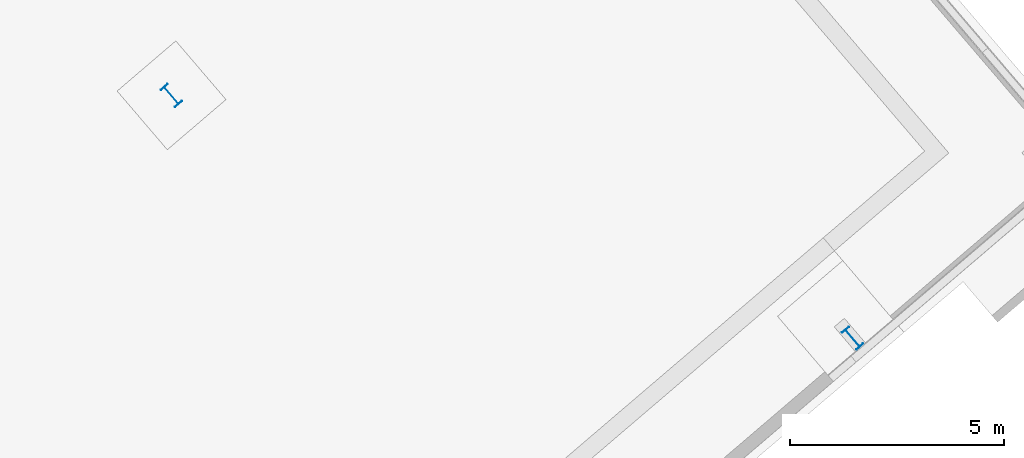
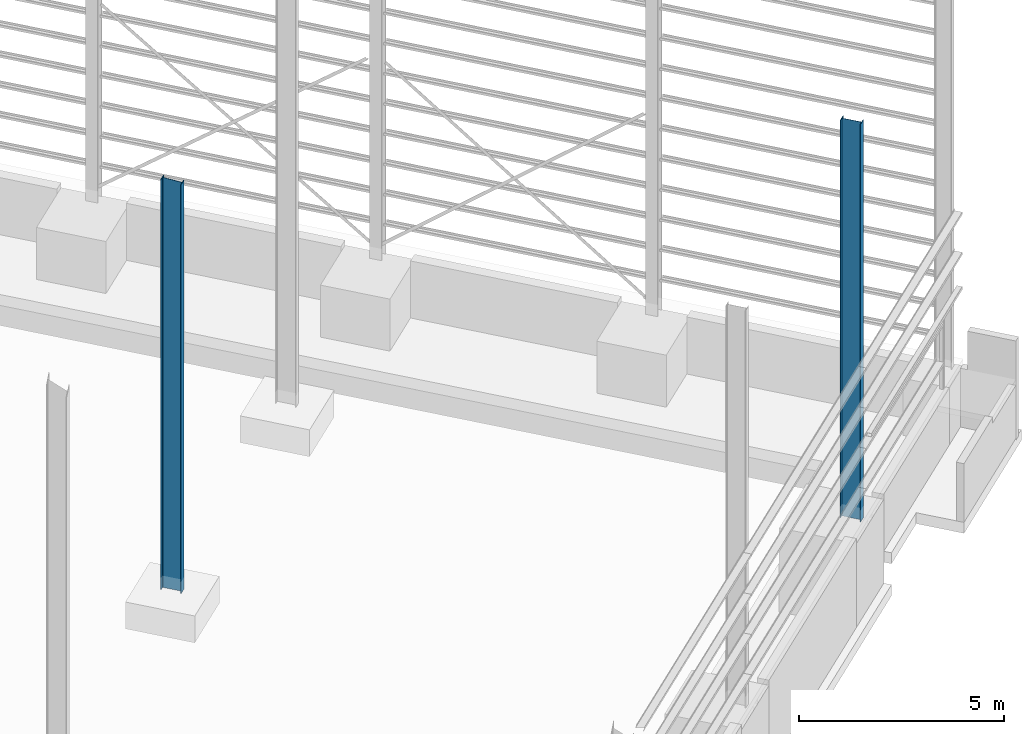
# One storey, part 8 of 41: 2 columns.
"""IFC2X3 building model written with IfcOpenShell, lengths in millimetres."""

import ifcopenshell
import ifcopenshell.guid

model = None  # the IFC model being written
_history = None  # IfcOwnerHistory: only IFC2X3 demands one
_inside = {}  # id of a spatial element -> (the spatial element, [elements in it])
_under = {}  # id of a project, library or spatial element -> (it, [spatial elements below it])
_declared = {}  # id of a project -> (the project, [libraries it declares])
_typed = {}  # id of a type object -> (the type object, [elements of that type])
_made_of = {}  # id of a material, layer set ... -> (it, [elements and type objects made of it])


def new_model(schema):
    """Start an empty IFC model of exactly this schema.

    Asked for "IFC4X3", IfcOpenShell would pick the latest addendum, in which some entities
    have other attributes; the version numbers below select the first issue.
    IFC2X3 requires an IfcOwnerHistory on every rooted entity: one is made here for all.
    """
    global model, _history
    if schema == "IFC4X3":
        model = ifcopenshell.file(schema_version=(4, 3, 0, 0))
    else:
        model = ifcopenshell.file(schema=schema)
    _inside.clear()
    _under.clear()
    _declared.clear()
    _typed.clear()
    _made_of.clear()
    _history = None
    if model.schema == "IFC2X3":
        org = make("IfcOrganization", Name="unknown")
        user = make(
            "IfcPersonAndOrganization",
            ThePerson=make("IfcPerson", FamilyName="unknown"),
            TheOrganization=org,
        )
        app = make(
            "IfcApplication",
            ApplicationDeveloper=org,
            Version="unknown",
            ApplicationFullName="unknown",
            ApplicationIdentifier="unknown",
        )
        _history = make(
            "IfcOwnerHistory",
            OwningUser=user,
            OwningApplication=app,
            ChangeAction="ADDED",
            CreationDate=0,
        )
    return model


def make(cls, **values):
    """One entity of the class cls with the attributes given. An attribute that is None is left unset."""
    return model.create_entity(
        cls, **{name: value for name, value in values.items() if value is not None}
    )


def entity(cls, *values):
    """Any entity or typed value of the class cls, its attributes in the order of the schema. None: left unset."""
    e = model.create_entity(cls)
    for i, value in enumerate(values):
        if value is not None:
            e[i] = value
    return e


def rooted(cls, **values):
    """An entity with a GlobalId (a new one), such as an element, a storey or a relation."""
    return make(cls, GlobalId=ifcopenshell.guid.new(), OwnerHistory=_history, **values)


def si_unit(unit_type, name, prefix=None):
    """IfcSIUnit, for example si_unit("LENGTHUNIT", "METRE", prefix="MILLI")."""
    return make("IfcSIUnit", UnitType=unit_type, Prefix=prefix, Name=name)


def converted_unit(unit_type, name, factor, base, dimensions=None, offset=None):
    """IfcConversionBasedUnit, such as the inch: factor (a typed value) times the base unit."""
    return make(
        "IfcConversionBasedUnit"
        if offset is None
        else "IfcConversionBasedUnitWithOffset",
        ConversionOffset=offset,
        Dimensions=None
        if dimensions is None
        else entity("IfcDimensionalExponents", *dimensions),
        UnitType=unit_type,
        Name=name,
        ConversionFactor=make(
            "IfcMeasureWithUnit", ValueComponent=factor, UnitComponent=base
        ),
    )


def derived_unit(unit_type, elements):
    """IfcDerivedUnit: a product of units, each with its exponent."""
    return make(
        "IfcDerivedUnit",
        Elements=[
            make("IfcDerivedUnitElement", Unit=unit, Exponent=power)
            for unit, power in elements
        ],
        UnitType=unit_type,
    )


def assignment(units):
    """IfcUnitAssignment: the units of a project."""
    return None if units is None else make("IfcUnitAssignment", Units=units)


def point(xyz):
    """IfcCartesianPoint."""
    return None if xyz is None else make("IfcCartesianPoint", Coordinates=xyz)


def direction(xyz):
    """IfcDirection."""
    return None if xyz is None else make("IfcDirection", DirectionRatios=xyz)


def frame(location, z_axis=None, x_axis=None):
    """IfcAxis2Placement3D, a coordinate frame: its origin and axes. An axis left out is left unset."""
    return make(
        "IfcAxis2Placement3D",
        Location=point(location),
        Axis=direction(z_axis),
        RefDirection=direction(x_axis),
    )


def frame_2d(location, x_axis=None):
    """IfcAxis2Placement2D, a coordinate frame in the plane: its origin and x axis."""
    return make(
        "IfcAxis2Placement2D", Location=point(location), RefDirection=direction(x_axis)
    )


def origin():
    """The frame at (0, 0, 0) with its axes left unset."""
    return frame((0.0, 0.0, 0.0))


def origin_2d():
    """The frame at (0, 0) in the plane with its x axis left unset."""
    return frame_2d((0.0, 0.0))


def place(relative_to, where):
    """IfcLocalPlacement: puts the frame where relative to a parent placement (None: the world)."""
    return make(
        "IfcLocalPlacement", PlacementRelTo=relative_to, RelativePlacement=where
    )


def context(
    kind, dimensions, precision=None, world=None, true_north=None, identifier=None
):
    """IfcGeometricRepresentationContext, for example the 3D "Model" context."""
    return make(
        "IfcGeometricRepresentationContext",
        ContextIdentifier=identifier,
        ContextType=kind,
        CoordinateSpaceDimension=dimensions,
        Precision=precision,
        WorldCoordinateSystem=world,
        TrueNorth=true_north,
    )


def subcontext(parent, identifier, kind, view, scale=None):
    """IfcGeometricRepresentationSubContext, for example "Body" below "Model"."""
    return make(
        "IfcGeometricRepresentationSubContext",
        ContextIdentifier=identifier,
        ContextType=kind,
        ParentContext=parent,
        TargetScale=scale,
        TargetView=view,
    )


def project(units=None, contexts=None):
    """IfcProject with its units and contexts."""
    return rooted(
        "IfcProject",
        Name="project",
        RepresentationContexts=contexts,
        UnitsInContext=assignment(units),
    )


def spatial(cls, under=None, at=None, **own):
    """A site, building, storey or space (cls), placed at a placement, below another one or the project."""
    s = rooted(cls, ObjectPlacement=at, **own)
    if under is not None:
        _under.setdefault(under.id(), (under, []))[1].append(s)
    return s


def polyline(points):
    """IfcPolyline through the points."""
    return make("IfcPolyline", Points=[point(p) for p in points])


def circle_curve(where, radius):
    """IfcCircle in the frame where."""
    return make("IfcCircle", Position=where, Radius=radius)


def parameter(value):
    """IfcParameterValue: where a trimmed curve begins or ends, as a parameter of its basis curve."""
    return model.create_entity("IfcParameterValue", value)


def trimmed(basis, trim1, trim2, sense, master):
    """IfcTrimmedCurve: the piece of a basis curve between two trims."""
    return make(
        "IfcTrimmedCurve",
        BasisCurve=basis,
        Trim1=trim1,
        Trim2=trim2,
        SenseAgreement=sense,
        MasterRepresentation=master,
    )


def segment(curve, same_sense, transition):
    """IfcCompositeCurveSegment."""
    return make(
        "IfcCompositeCurveSegment",
        Transition=transition,
        SameSense=same_sense,
        ParentCurve=curve,
    )


def composite_curve(segments, self_intersect=None):
    """IfcCompositeCurve: segments joined end to end."""
    return make("IfcCompositeCurve", Segments=segments, SelfIntersect=self_intersect)


def profile(cls, at=None, kind="AREA", **sizes):
    """A parametric profile (cls). Its sizes go by their IFC names, for example OverallWidth=200.0."""
    return make(cls, ProfileType=kind, Position=at, **sizes)


def i_section(**sizes):
    """IfcIShapeProfileDef."""
    return profile("IfcIShapeProfileDef", **sizes)


def outline(outer, holes=None, kind="AREA"):
    """IfcArbitraryClosedProfileDef: a profile drawn as a closed curve; with holes, ...WithVoids."""
    if holes is None:
        return make("IfcArbitraryClosedProfileDef", ProfileType=kind, OuterCurve=outer)
    return make(
        "IfcArbitraryProfileDefWithVoids",
        ProfileType=kind,
        OuterCurve=outer,
        InnerCurves=holes,
    )


def extrude(swept, where, along, depth):
    """IfcExtrudedAreaSolid: the profile swept, set in the frame where, extruded along a direction by depth."""
    return make(
        "IfcExtrudedAreaSolid",
        SweptArea=swept,
        Position=where,
        ExtrudedDirection=direction(along),
        Depth=depth,
    )


def clip(a, b, op="DIFFERENCE"):
    """IfcBooleanClippingResult: the solid a cut by the half space b."""
    return make(
        "IfcBooleanClippingResult", Operator=op, FirstOperand=a, SecondOperand=b
    )


def halfspace(plane, agree):
    """IfcHalfSpaceSolid: all space on one side of the plane z = 0 of the frame plane."""
    return make(
        "IfcHalfSpaceSolid",
        BaseSurface=make("IfcPlane", Position=plane),
        AgreementFlag=agree,
    )


def shape(context_of_items, identifier, shape_type, items):
    """IfcShapeRepresentation: the items that make up one representation, for example the "Body"."""
    return make(
        "IfcShapeRepresentation",
        ContextOfItems=context_of_items,
        RepresentationIdentifier=identifier,
        RepresentationType=shape_type,
        Items=items,
    )


def source(mapping_origin, context_of_items, identifier, shape_type, items):
    """IfcRepresentationMap: a shape defined once, which mapped items show again and again."""
    return make(
        "IfcRepresentationMap",
        MappingOrigin=mapping_origin,
        MappedRepresentation=shape(context_of_items, identifier, shape_type, items),
    )


def transform(
    local_origin,
    x_axis=None,
    y_axis=None,
    z_axis=None,
    scale=None,
    scale2=None,
    scale3=None,
    uniform=True,
):
    """IfcCartesianTransformationOperator3D, or its non-uniform kind. x_axis, y_axis, z_axis: its Axis1, 2, 3."""
    if uniform:
        return make(
            "IfcCartesianTransformationOperator3D",
            Axis1=direction(x_axis),
            Axis2=direction(y_axis),
            LocalOrigin=point(local_origin),
            Scale=scale,
            Axis3=direction(z_axis),
        )
    return make(
        "IfcCartesianTransformationOperator3DnonUniform",
        Axis1=direction(x_axis),
        Axis2=direction(y_axis),
        LocalOrigin=point(local_origin),
        Scale=scale,
        Axis3=direction(z_axis),
        Scale2=scale2,
        Scale3=scale3,
    )


def mapped(mapping_source, mapping_target):
    """IfcMappedItem: shows the shape of a source again, moved by a transform."""
    return make(
        "IfcMappedItem", MappingSource=mapping_source, MappingTarget=mapping_target
    )


def material(Name=None, Category=None):
    """IfcMaterial."""
    return make("IfcMaterial", Name=Name, Category=Category)


def made_of(thing, what):
    """Note that an element or type object is made of a material, layer set ...; save() writes the relation."""
    if what is not None:
        _made_of.setdefault(what.id(), (what, []))[1].append(thing)
    return thing


def type_object(cls, material=None, **own):
    """A type object (cls), such as IfcWallType, which elements share."""
    return made_of(rooted(cls, **own), material)


def type_shapes(of_type, sources):
    """Give a type object the sources (RepresentationMaps) that its elements show as mapped items."""
    of_type.RepresentationMaps = sources


def element(
    cls,
    number,
    at=None,
    inside=None,
    cuts=None,
    type_object=None,
    material=None,
    context=None,
    identifier="Body",
    shape_type=None,
    held_by="IfcProductDefinitionShape",
    body=None,
    shapes=None,
    **own,
):
    """One element of the class cls, such as IfcWall. Its Tag is "e" and its number.

    at: its placement. inside: the storey or other place that contains it. cuts: it is an
    opening in that element (IfcRelVoidsElement). A single representation is given by context,
    identifier, shape_type and body (its items); several are given by shapes. held_by: the class
    of the entity that holds the representations. save() writes the other relations.
    """
    e = rooted(cls, Tag="e%d" % number, ObjectPlacement=at, **own)
    if body is not None:
        shapes = [shape(context, identifier, shape_type, body)]
    if shapes is not None:
        e.Representation = make(held_by, Representations=shapes)
    if inside is not None:
        _inside.setdefault(inside.id(), (inside, []))[1].append(e)
    if cuts is not None:
        rooted(
            "IfcRelVoidsElement", RelatingBuildingElement=cuts, RelatedOpeningElement=e
        )
    if type_object is not None:
        _typed.setdefault(type_object.id(), (type_object, []))[1].append(e)
    return made_of(e, material)


def aggregate(whole, parts):
    """IfcRelAggregates: a whole, such as a stair, and the parts it consists of."""
    return rooted("IfcRelAggregates", RelatingObject=whole, RelatedObjects=parts)


def save(model, path):
    """Write the relations noted so far, then the file.

    IfcRelAggregates (storeys below a building ...), IfcRelContainedInSpatialStructure (elements
    in a storey), IfcRelDefinesByType, IfcRelAssociatesMaterial and IfcRelDeclares: one each for
    every whole, place, type object, material and project.
    """
    for whole, parts in _under.values():
        aggregate(whole, parts)
    for where, things in _inside.values():
        rooted(
            "IfcRelContainedInSpatialStructure",
            RelatedElements=things,
            RelatingStructure=where,
        )
    for kind, things in _typed.values():
        rooted("IfcRelDefinesByType", RelatedObjects=things, RelatingType=kind)
    for what, things in _made_of.values():
        rooted("IfcRelAssociatesMaterial", RelatedObjects=things, RelatingMaterial=what)
    for by, libraries in _declared.values():
        rooted("IfcRelDeclares", RelatingContext=by, RelatedDefinitions=libraries)
    model.write(path)


model = new_model("IFC2X3")

# Units and contexts
model_context = context("Model", 3, precision=0.01, world=origin(), true_north=direction((6.123031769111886e-17, 1.0)))
body_context = subcontext(model_context, "Body", "Model", "MODEL_VIEW")
ifc_project = project(units=[si_unit("LENGTHUNIT", "METRE", prefix="MILLI"), si_unit("AREAUNIT", "SQUARE_METRE"), si_unit("VOLUMEUNIT", "CUBIC_METRE"), converted_unit("PLANEANGLEUNIT", "DEGREE", entity("IfcRatioMeasure", 0.017453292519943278), si_unit("PLANEANGLEUNIT", "RADIAN"), dimensions=[0, 0, 0, 0, 0, 0, 0]), si_unit("MASSUNIT", "GRAM", prefix="KILO"), derived_unit("MASSDENSITYUNIT", [(si_unit("MASSUNIT", "GRAM", prefix="KILO"), 1), (si_unit("LENGTHUNIT", "METRE"), -3)]), derived_unit("MOMENTOFINERTIAUNIT", [(si_unit("LENGTHUNIT", "METRE"), 4)]), si_unit("TIMEUNIT", "SECOND"), si_unit("FREQUENCYUNIT", "HERTZ"), si_unit("THERMODYNAMICTEMPERATUREUNIT", "DEGREE_CELSIUS"), derived_unit("THERMALTRANSMITTANCEUNIT", [(si_unit("MASSUNIT", "GRAM", prefix="KILO"), 1), (si_unit("THERMODYNAMICTEMPERATUREUNIT", "KELVIN"), -1), (si_unit("TIMEUNIT", "SECOND"), -3)]), derived_unit("VOLUMETRICFLOWRATEUNIT", [(si_unit("LENGTHUNIT", "METRE"), 3), (si_unit("TIMEUNIT", "SECOND"), -1)]), derived_unit("MASSFLOWRATEUNIT", [(si_unit("MASSUNIT", "GRAM", prefix="KILO"), 1), (si_unit("TIMEUNIT", "SECOND"), -1)]), derived_unit("ROTATIONALFREQUENCYUNIT", [(si_unit("TIMEUNIT", "SECOND"), -1)]), si_unit("ELECTRICCURRENTUNIT", "AMPERE"), si_unit("ELECTRICVOLTAGEUNIT", "VOLT"), si_unit("POWERUNIT", "WATT"), si_unit("FORCEUNIT", "NEWTON", prefix="KILO"), si_unit("ILLUMINANCEUNIT", "LUX"), si_unit("LUMINOUSFLUXUNIT", "LUMEN"), si_unit("LUMINOUSINTENSITYUNIT", "CANDELA"), derived_unit("USERDEFINED", [(si_unit("MASSUNIT", "GRAM", prefix="KILO"), -1), (si_unit("LENGTHUNIT", "METRE"), -2), (si_unit("TIMEUNIT", "SECOND"), 3), (si_unit("LUMINOUSFLUXUNIT", "LUMEN"), 1)]), derived_unit("SOUNDPOWERUNIT", [(si_unit("MASSUNIT", "GRAM", prefix="KILO"), 1), (si_unit("LENGTHUNIT", "METRE"), 2), (si_unit("TIMEUNIT", "SECOND"), -3)]), derived_unit("LINEARVELOCITYUNIT", [(si_unit("LENGTHUNIT", "METRE"), 1), (si_unit("TIMEUNIT", "SECOND"), -1)]), si_unit("PRESSUREUNIT", "PASCAL"), derived_unit("USERDEFINED", [(si_unit("LENGTHUNIT", "METRE"), -2), (si_unit("MASSUNIT", "GRAM", prefix="KILO"), 1), (si_unit("TIMEUNIT", "SECOND"), -2)]), derived_unit("LINEARFORCEUNIT", [(si_unit("MASSUNIT", "GRAM", prefix="KILO"), 1), (si_unit("LENGTHUNIT", "METRE"), 1), (si_unit("TIMEUNIT", "SECOND"), -2), (si_unit("LENGTHUNIT", "METRE"), -1)]), derived_unit("PLANARFORCEUNIT", [(si_unit("MASSUNIT", "GRAM", prefix="KILO"), 1), (si_unit("LENGTHUNIT", "METRE"), 1), (si_unit("TIMEUNIT", "SECOND"), -2), (si_unit("LENGTHUNIT", "METRE"), -2)])], contexts=[model_context])

# Site, building, storey
site_placement = place(None, frame((962.4174930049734, -6014.433753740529, 0.0), z_axis=(0.0, 0.0, 1.0), x_axis=(0.7601792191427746, 0.649713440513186, 0.0)))
site = spatial("IfcSite", under=ifc_project, at=site_placement, Name="Default", CompositionType="ELEMENT")
building_placement = place(site_placement, origin())
building = spatial("IfcBuilding", under=site, at=building_placement, CompositionType="ELEMENT")
storey_placement = place(building_placement, origin())
storey = spatial("IfcBuildingStorey", under=building, at=storey_placement, Name="Datum", CompositionType="ELEMENT", Elevation=0.0)

# Columns
ifc_material = material(Name="Metal - Steel - 300 MPa")
column_type_1 = type_object("IfcColumnType", Name="ADSK_AU_UB-Universal Beams-Column (AS 3679_1):530UB92.4", PredefinedType="COLUMN", material=ifc_material)
shared_shape = source(origin(), body_context, "Body", "SweptSolid", [
    clip(extrude(outline(composite_curve([segment(polyline([(250.89999999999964, -104.49999999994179), (266.5000000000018, -104.49999999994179)]), True, "CONTINUOUS"), segment(polyline([(266.5, -104.49999999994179), (266.5, 104.50000000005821)]), True, "CONTINUOUS"), segment(polyline([(266.5000000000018, 104.5000000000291), (250.89999999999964, 104.5000000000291)]), True, "CONTINUOUS"), segment(polyline([(250.89999999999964, 104.5000000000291), (250.89999999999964, 19.100000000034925)]), True, "CONTINUOUS"), segment(trimmed(circle_curve(frame_2d((236.900000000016, 19.100000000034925), x_axis=(1.0, 0.0)), 13.999999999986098), [parameter(269.99999999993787)], [parameter(0.0)], True, "PARAMETER"), False, "CONTINUOUS"), segment(polyline([(236.90000000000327, 5.100000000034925), (-236.89999999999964, 5.100000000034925)]), True, "CONTINUOUS"), segment(trimmed(circle_curve(frame_2d((-236.9000000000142, 19.100000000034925), x_axis=(0.0, -1.0)), 13.999999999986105), [parameter(269.99999999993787)], [parameter(0.0)], True, "PARAMETER"), False, "CONTINUOUS"), segment(polyline([(-250.89999999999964, 19.100000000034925), (-250.89999999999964, 104.5000000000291)]), True, "CONTINUOUS"), segment(polyline([(-250.899999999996, 104.5000000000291), (-266.5000000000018, 104.5000000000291)]), True, "CONTINUOUS"), segment(polyline([(-266.5, 104.5000000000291), (-266.5, -104.4999999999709)]), True, "CONTINUOUS"), segment(polyline([(-266.5000000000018, -104.49999999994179), (-250.899999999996, -104.49999999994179)]), True, "CONTINUOUS"), segment(polyline([(-250.89999999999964, -104.49999999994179), (-250.89999999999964, -19.099999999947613)]), True, "CONTINUOUS"), segment(trimmed(circle_curve(frame_2d((-236.9000000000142, -19.099999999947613), x_axis=(-1.0, 0.0)), 13.999999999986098), [parameter(269.99999999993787)], [parameter(0.0)], True, "PARAMETER"), False, "CONTINUOUS"), segment(polyline([(-236.89999999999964, -5.099999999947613), (236.90000000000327, -5.099999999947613)]), True, "CONTINUOUS"), segment(trimmed(circle_curve(frame_2d((236.900000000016, -19.099999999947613), x_axis=(0.0, 1.0)), 13.999999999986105), [parameter(269.99999999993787)], [parameter(0.0)], True, "PARAMETER"), False, "CONTINUOUS"), segment(polyline([(250.89999999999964, -19.099999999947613), (250.89999999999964, -104.49999999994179)]), True, "CONTINUOUS")], self_intersect=False)), frame((170738.96020470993, -11221.928082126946, -350.0), z_axis=(0.0, 0.0, 1.0), x_axis=(0.0, -1.0, 0.0)), (0.0, 0.0, 1.0), 12223.952039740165), halfspace(frame((158388.96020470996, -10955.428082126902, 11873.952039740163), z_axis=(0.0, -0.06975647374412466, 0.9975640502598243), x_axis=(1.0, 0.0, 0.0)), False)),
])
type_shapes(column_type_1, [shared_shape])
column_1_placement = place(building_placement, origin())
element("IfcColumn", 1, at=column_1_placement, inside=storey, type_object=column_type_1, material=ifc_material, Name="ADSK_AU_UB-Universal Beams-Column (AS 3679_1):530UB92.4", ObjectType="ADSK_AU_UB-Universal Beams-Column (AS 3679_1):530UB92.4", context=body_context, shape_type="MappedRepresentation", body=[
    mapped(shared_shape, transform((0.0, 0.0, 0.0), scale=1.0)),
])
column_type_2 = type_object("IfcColumnType", Name="ADSK_AU_UB-Universal Beams-Column (AS 3679_1):530UB92.4", PredefinedType="COLUMN", material=ifc_material)
column_2_placement = place(building_placement, frame((179138.96020471, -25846.928082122, 11505.0)))
element("IfcColumn", 2, at=column_2_placement, inside=storey, type_object=column_type_2, material=ifc_material, Name="ADSK_AU_UB-Universal Beams-Column (AS 3679_1):530UB92.4", ObjectType="530UB92.4", context=model_context, shape_type="SweptSolid", body=[
    extrude(i_section(OverallWidth=209.0, OverallDepth=533.0, WebThickness=10.2, FlangeThickness=15.6, FilletRadius=14.0, at=origin_2d()), origin(), (0.0, 0.0, -1.0), 11855.0),
])

save(model, "model.ifc")
